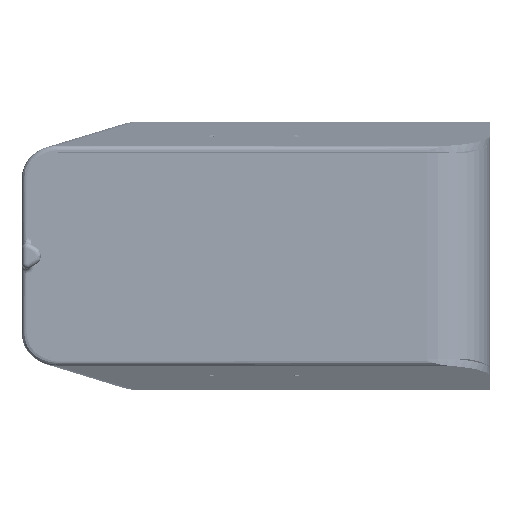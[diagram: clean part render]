
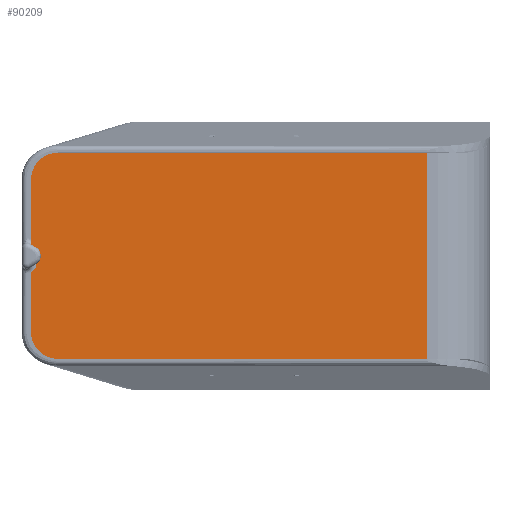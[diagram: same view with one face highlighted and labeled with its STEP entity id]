
A CAD part, top view. The second image highlights one B-rep face of the part: STEP entity #90209.
In plain terms, the highlighted planar face has unit normal (0, 0, 1) as drawn and (0, -1, 0) by its records, which use the part's own axes.
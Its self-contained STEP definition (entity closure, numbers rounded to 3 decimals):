
#4642=CIRCLE('',#96203,5.5);
#4644=CIRCLE('',#96207,5.5);
#13385=FACE_OUTER_BOUND('',#18816,.T.);
#18816=EDGE_LOOP('',(#81921,#81922,#81923,#81924,#81925,#81926));
#27171=LINE('',#204509,#35673);
#27173=LINE('',#204514,#35675);
#27174=LINE('',#204518,#35676);
#27175=LINE('',#204519,#35677);
#35673=VECTOR('',#114946,10.);
#35675=VECTOR('',#114952,10.);
#35676=VECTOR('',#114955,10.);
#35677=VECTOR('',#114956,10.);
#44138=VERTEX_POINT('',#204502);
#44139=VERTEX_POINT('',#204504);
#44140=VERTEX_POINT('',#204508);
#44141=VERTEX_POINT('',#204513);
#44142=VERTEX_POINT('',#204515);
#44143=VERTEX_POINT('',#204517);
#56782=EDGE_CURVE('',#44138,#44139,#4642,.T.);
#56784=EDGE_CURVE('',#44140,#44139,#27171,.T.);
#56787=EDGE_CURVE('',#44138,#44141,#27173,.T.);
#56788=EDGE_CURVE('',#44142,#44141,#4644,.T.);
#56789=EDGE_CURVE('',#44142,#44143,#27174,.T.);
#56790=EDGE_CURVE('',#44143,#44140,#27175,.T.);
#81921=ORIENTED_EDGE('',*,*,#56782,.F.);
#81922=ORIENTED_EDGE('',*,*,#56787,.T.);
#81923=ORIENTED_EDGE('',*,*,#56788,.F.);
#81924=ORIENTED_EDGE('',*,*,#56789,.T.);
#81925=ORIENTED_EDGE('',*,*,#56790,.T.);
#81926=ORIENTED_EDGE('',*,*,#56784,.T.);
#85349=PLANE('',#96206);
#90209=ADVANCED_FACE('',(#13385),#85349,.F.);
#96203=AXIS2_PLACEMENT_3D('',#204505,#114941,#114942);
#96206=AXIS2_PLACEMENT_3D('',#204512,#114950,#114951);
#96207=AXIS2_PLACEMENT_3D('',#204516,#114953,#114954);
#114941=DIRECTION('center_axis',(0.,1.,0.));
#114942=DIRECTION('ref_axis',(0.707,0.,-0.707));
#114946=DIRECTION('',(1.,0.,0.));
#114950=DIRECTION('center_axis',(0.,1.,0.));
#114951=DIRECTION('ref_axis',(0.,0.,
-1.));
#114952=DIRECTION('',(0.,0.,1.));
#114953=DIRECTION('center_axis',(0.,1.,0.));
#114954=DIRECTION('ref_axis',(0.707,0.,0.707));
#114955=DIRECTION('',(-1.,0.,0.));
#114956=DIRECTION('',(0.,0.,-1.));
#204502=CARTESIAN_POINT('',(-11.785,-158.104,-15.7));
#204504=CARTESIAN_POINT('',(-17.285,-158.104,-21.2));
#204505=CARTESIAN_POINT('Origin',(-17.285,-158.104,-15.7));
#204508=CARTESIAN_POINT('',(-93.185,-158.104,-21.2));
#204509=CARTESIAN_POINT('',(-40.905,-158.104,-21.2));
#204512=CARTESIAN_POINT('Origin',(-70.625,-158.104,0.));
#204513=CARTESIAN_POINT('',(-11.785,-158.104,15.7));
#204514=CARTESIAN_POINT('',(-11.785,-158.104,-27.5));
#204515=CARTESIAN_POINT('',(-17.285,-158.104,21.2));
#204516=CARTESIAN_POINT('Origin',(-17.285,-158.104,15.7));
#204517=CARTESIAN_POINT('',(-93.185,-158.104,21.2));
#204518=CARTESIAN_POINT('',(-81.905,-158.104,21.2));
#204519=CARTESIAN_POINT('',(-93.185,-158.104,0.));
